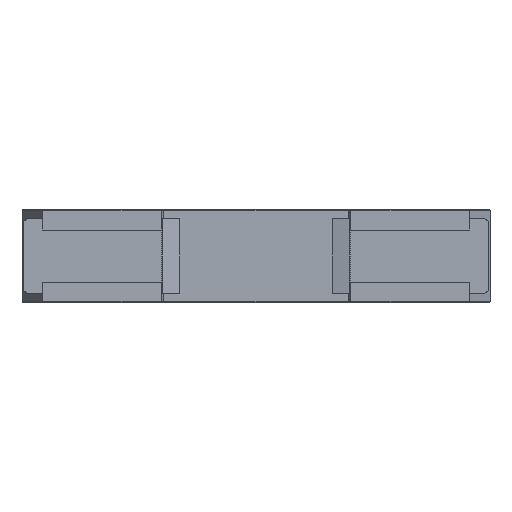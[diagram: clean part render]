
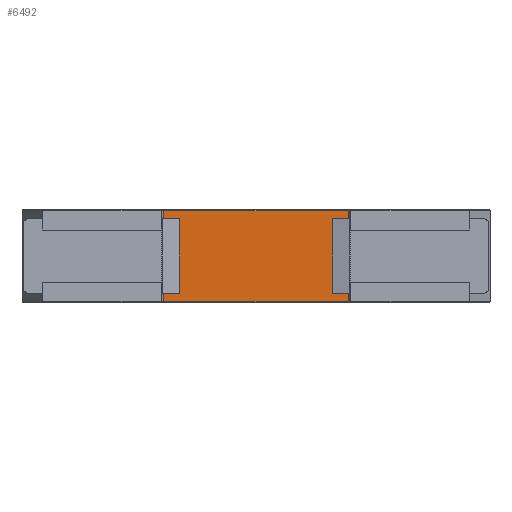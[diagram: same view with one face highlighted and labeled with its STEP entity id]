
A CAD part, front view. The second image highlights one B-rep face of the part: STEP entity #6492.
In plain terms, the highlighted planar face has unit normal (0, -1, 0).
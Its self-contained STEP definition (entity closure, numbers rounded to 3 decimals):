
#128 = ORIENTED_EDGE ( 'NONE', *, *, #9024, .F. ) ;
#156 = VERTEX_POINT ( 'NONE', #6906 ) ;
#351 = DIRECTION ( 'NONE',  ( -1., 0., 0. ) ) ;
#586 = DIRECTION ( 'NONE',  ( 0., 1., 0. ) ) ;
#653 = CARTESIAN_POINT ( 'NONE',  ( 0., 0., 8.7 ) ) ;
#753 = CARTESIAN_POINT ( 'NONE',  ( -17.75, 0., 7.15 ) ) ;
#785 = EDGE_CURVE ( 'NONE', #13637, #4010, #10896, .T. ) ;
#1010 = ORIENTED_EDGE ( 'NONE', *, *, #7559, .F. ) ;
#1075 = VECTOR ( 'NONE', #4717, 1000. ) ;
#1110 = LINE ( 'NONE', #12184, #9957 ) ;
#1202 = CARTESIAN_POINT ( 'NONE',  ( -17.75, 0., 8.7 ) ) ;
#1276 = CARTESIAN_POINT ( 'NONE',  ( 17.75, 0., 8.9 ) ) ;
#1312 = DIRECTION ( 'NONE',  ( -1., 0., 0. ) ) ;
#1535 = VECTOR ( 'NONE', #11237, 1000. ) ;
#1589 = ORIENTED_EDGE ( 'NONE', *, *, #12402, .T. ) ;
#1968 = CARTESIAN_POINT ( 'NONE',  ( 17.5, 0., 7.15 ) ) ;
#2036 = AXIS2_PLACEMENT_3D ( 'NONE', #9774, #586, #10796 ) ;
#2092 = DIRECTION ( 'NONE',  ( 0., 0., -1. ) ) ;
#2499 = VECTOR ( 'NONE', #13305, 1000. ) ;
#2864 = EDGE_CURVE ( 'NONE', #13262, #6749, #11508, .T. ) ;
#3011 = LINE ( 'NONE', #7028, #8828 ) ;
#3125 = CARTESIAN_POINT ( 'NONE',  ( -17.75, 0., -7.15 ) ) ;
#3168 = VERTEX_POINT ( 'NONE', #5622 ) ;
#3301 = VERTEX_POINT ( 'NONE', #1202 ) ;
#3367 = VERTEX_POINT ( 'NONE', #3644 ) ;
#3644 = CARTESIAN_POINT ( 'NONE',  ( -17.5, 0., 7.15 ) ) ;
#3661 = EDGE_CURVE ( 'NONE', #8088, #13637, #7825, .T. ) ;
#3782 = EDGE_CURVE ( 'NONE', #8206, #11710, #8379, .T. ) ;
#3884 = PLANE ( 'NONE',  #2036 ) ;
#4010 = VERTEX_POINT ( 'NONE', #14110 ) ;
#4114 = LINE ( 'NONE', #9342, #1075 ) ;
#4363 = VECTOR ( 'NONE', #9501, 1000. ) ;
#4441 = CARTESIAN_POINT ( 'NONE',  ( 17.5, 0., 8.9 ) ) ;
#4717 = DIRECTION ( 'NONE',  ( 0., 0., 1. ) ) ;
#4926 = CARTESIAN_POINT ( 'NONE',  ( -17.75, 0., -8.7 ) ) ;
#5553 = ORIENTED_EDGE ( 'NONE', *, *, #785, .T. ) ;
#5622 = CARTESIAN_POINT ( 'NONE',  ( -17.75, 0., 7.15 ) ) ;
#5710 = ORIENTED_EDGE ( 'NONE', *, *, #6319, .F. ) ;
#5801 = ORIENTED_EDGE ( 'NONE', *, *, #6318, .T. ) ;
#5969 = CARTESIAN_POINT ( 'NONE',  ( -17.5, 0., -7.15 ) ) ;
#6008 = EDGE_CURVE ( 'NONE', #3301, #13262, #14401, .T. ) ;
#6110 = VECTOR ( 'NONE', #351, 1000. ) ;
#6318 = EDGE_CURVE ( 'NONE', #156, #11710, #9200, .T. ) ;
#6319 = EDGE_CURVE ( 'NONE', #6749, #8206, #3011, .T. ) ;
#6492 = ADVANCED_FACE ( 'NONE', ( #12261 ), #3884, .F. ) ;
#6710 = LINE ( 'NONE', #4926, #4363 ) ;
#6749 = VERTEX_POINT ( 'NONE', #13691 ) ;
#6906 = CARTESIAN_POINT ( 'NONE',  ( 17.75, 0., -7.15 ) ) ;
#6947 = VECTOR ( 'NONE', #11669, 1000. ) ;
#6985 = ORIENTED_EDGE ( 'NONE', *, *, #7081, .T. ) ;
#6994 = EDGE_LOOP ( 'NONE', ( #1589, #14914, #128, #10094, #5553, #1010, #6985, #5801, #14792, #5710, #11179, #12237 ) ) ;
#7028 = CARTESIAN_POINT ( 'NONE',  ( 44.75, 0., 7.15 ) ) ;
#7081 = EDGE_CURVE ( 'NONE', #11662, #156, #10226, .T. ) ;
#7335 = CARTESIAN_POINT ( 'NONE',  ( -17.75, 0., -7.15 ) ) ;
#7559 = EDGE_CURVE ( 'NONE', #11662, #4010, #6710, .T. ) ;
#7825 = LINE ( 'NONE', #14575, #1535 ) ;
#8088 = VERTEX_POINT ( 'NONE', #5969 ) ;
#8206 = VERTEX_POINT ( 'NONE', #1968 ) ;
#8379 = LINE ( 'NONE', #4441, #13247 ) ;
#8828 = VECTOR ( 'NONE', #1312, 1000. ) ;
#8974 = DIRECTION ( 'NONE',  ( -1., 0., 0. ) ) ;
#9024 = EDGE_CURVE ( 'NONE', #8088, #3367, #4114, .T. ) ;
#9200 = LINE ( 'NONE', #10546, #6110 ) ;
#9342 = CARTESIAN_POINT ( 'NONE',  ( -17.5, 0., 8.9 ) ) ;
#9442 = CARTESIAN_POINT ( 'NONE',  ( 17.75, 0., -8.7 ) ) ;
#9501 = DIRECTION ( 'NONE',  ( -1., 0., 0. ) ) ;
#9688 = VECTOR ( 'NONE', #9711, 1000. ) ;
#9711 = DIRECTION ( 'NONE',  ( 0., 0., 1. ) ) ;
#9774 = CARTESIAN_POINT ( 'NONE',  ( -17.75, 0., 8.9 ) ) ;
#9957 = VECTOR ( 'NONE', #13270, 1000. ) ;
#10094 = ORIENTED_EDGE ( 'NONE', *, *, #3661, .T. ) ;
#10226 = LINE ( 'NONE', #11991, #9688 ) ;
#10441 = LINE ( 'NONE', #753, #12762 ) ;
#10536 = VECTOR ( 'NONE', #2092, 1000. ) ;
#10546 = CARTESIAN_POINT ( 'NONE',  ( 44.75, 0., -7.15 ) ) ;
#10651 = CARTESIAN_POINT ( 'NONE',  ( 17.5, 0., -7.15 ) ) ;
#10796 = DIRECTION ( 'NONE',  ( 1., 0., 0. ) ) ;
#10896 = LINE ( 'NONE', #3125, #10536 ) ;
#11179 = ORIENTED_EDGE ( 'NONE', *, *, #2864, .F. ) ;
#11237 = DIRECTION ( 'NONE',  ( -1., 0., 0. ) ) ;
#11508 = LINE ( 'NONE', #1276, #6947 ) ;
#11662 = VERTEX_POINT ( 'NONE', #9442 ) ;
#11669 = DIRECTION ( 'NONE',  ( 0., 0., -1. ) ) ;
#11710 = VERTEX_POINT ( 'NONE', #10651 ) ;
#11991 = CARTESIAN_POINT ( 'NONE',  ( 17.75, 0., 8.9 ) ) ;
#12184 = CARTESIAN_POINT ( 'NONE',  ( -17.75, 0., -7.15 ) ) ;
#12237 = ORIENTED_EDGE ( 'NONE', *, *, #6008, .F. ) ;
#12261 = FACE_OUTER_BOUND ( 'NONE', #6994, .T. ) ;
#12402 = EDGE_CURVE ( 'NONE', #3301, #3168, #1110, .T. ) ;
#12676 = DIRECTION ( 'NONE',  ( 0., 0., -1. ) ) ;
#12762 = VECTOR ( 'NONE', #8974, 1000. ) ;
#13247 = VECTOR ( 'NONE', #12676, 1000. ) ;
#13262 = VERTEX_POINT ( 'NONE', #14066 ) ;
#13270 = DIRECTION ( 'NONE',  ( 0., 0., -1. ) ) ;
#13305 = DIRECTION ( 'NONE',  ( 1., 0., 0. ) ) ;
#13637 = VERTEX_POINT ( 'NONE', #7335 ) ;
#13691 = CARTESIAN_POINT ( 'NONE',  ( 17.75, 0., 7.15 ) ) ;
#13903 = EDGE_CURVE ( 'NONE', #3367, #3168, #10441, .T. ) ;
#14066 = CARTESIAN_POINT ( 'NONE',  ( 17.75, 0., 8.7 ) ) ;
#14110 = CARTESIAN_POINT ( 'NONE',  ( -17.75, 0., -8.7 ) ) ;
#14401 = LINE ( 'NONE', #653, #2499 ) ;
#14575 = CARTESIAN_POINT ( 'NONE',  ( -44.75, 0., -7.15 ) ) ;
#14792 = ORIENTED_EDGE ( 'NONE', *, *, #3782, .F. ) ;
#14914 = ORIENTED_EDGE ( 'NONE', *, *, #13903, .F. ) ;
